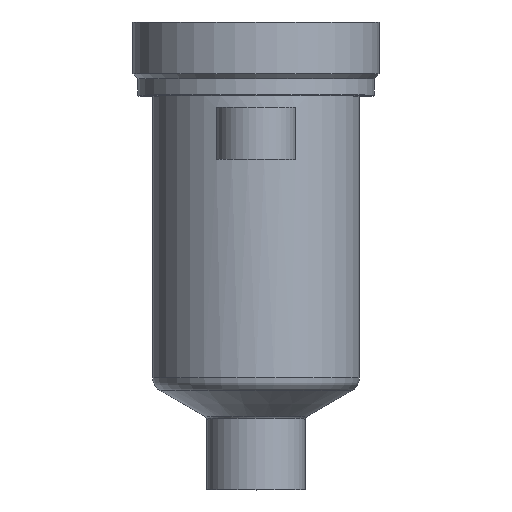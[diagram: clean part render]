
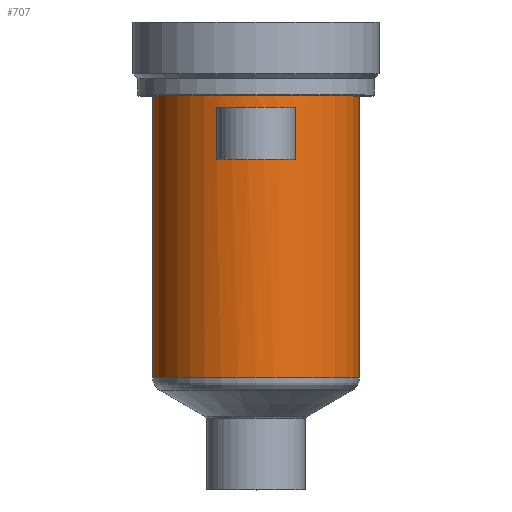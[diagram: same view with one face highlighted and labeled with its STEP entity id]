
A CAD part, top view. The second image highlights one B-rep face of the part: STEP entity #707.
In plain terms, the highlighted cylindrical face has radius 21 mm (diameter 42 mm), a partial arc.
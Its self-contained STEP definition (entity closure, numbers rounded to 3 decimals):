
#199=DIRECTION('',(0.,-1.,0.));
#200=VECTOR('',#199,57.228);
#201=CARTESIAN_POINT('',(21.,0.,0.));
#202=LINE('',#201,#200);
#203=CARTESIAN_POINT('',(0.,-57.228,0.));
#204=DIRECTION('',(0.,1.,0.));
#205=DIRECTION('',(-1.,0.,0.));
#206=AXIS2_PLACEMENT_3D('',#203,#204,#205);
#208=DIRECTION('',(0.,1.,0.));
#209=VECTOR('',#208,57.228);
#210=CARTESIAN_POINT('',(-21.,-57.228,0.));
#211=LINE('',#210,#209);
#212=CARTESIAN_POINT('',(0.,0.,0.));
#213=DIRECTION('',(0.,1.,0.));
#214=DIRECTION('',(-1.,0.,0.));
#215=AXIS2_PLACEMENT_3D('',#212,#213,#214);
#293=DIRECTION('',(0.,-1.,0.));
#294=VECTOR('',#293,10.5);
#295=CARTESIAN_POINT('',(-8.,-2.5,19.416));
#296=LINE('',#295,#294);
#297=CARTESIAN_POINT('',(0.,-13.,0.));
#298=DIRECTION('',(0.,1.,0.));
#299=DIRECTION('',(-0.381,0.,0.925));
#300=AXIS2_PLACEMENT_3D('',#297,#298,#299);
#323=CARTESIAN_POINT('',(0.,-2.5,0.));
#324=DIRECTION('',(0.,-1.,0.));
#325=DIRECTION('',(0.381,0.,0.925));
#326=AXIS2_PLACEMENT_3D('',#323,#324,#325);
#341=DIRECTION('',(0.,-1.,0.));
#342=VECTOR('',#341,10.5);
#343=CARTESIAN_POINT('',(8.,-2.5,19.416));
#344=LINE('',#343,#342);
#402=CARTESIAN_POINT('',(-21.,0.,0.));
#403=CARTESIAN_POINT('',(21.,0.,0.));
#404=VERTEX_POINT('',#402);
#405=VERTEX_POINT('',#403);
#414=CARTESIAN_POINT('',(-8.,-2.5,19.416));
#415=VERTEX_POINT('',#414);
#416=CARTESIAN_POINT('',(8.,-2.5,19.416));
#417=VERTEX_POINT('',#416);
#454=CARTESIAN_POINT('',(21.,-57.228,0.));
#455=VERTEX_POINT('',#454);
#464=CARTESIAN_POINT('',(-21.,-57.228,0.));
#465=VERTEX_POINT('',#464);
#466=CARTESIAN_POINT('',(-8.,-13.,19.416));
#467=CARTESIAN_POINT('',(8.,-13.,19.416));
#468=VERTEX_POINT('',#466);
#469=VERTEX_POINT('',#467);
#685=CARTESIAN_POINT('',(0.,16.4,0.));
#686=DIRECTION('',(0.,-1.,0.));
#687=DIRECTION('',(-1.,0.,0.));
#688=AXIS2_PLACEMENT_3D('',#685,#686,#687);
#689=CYLINDRICAL_SURFACE('',#688,21.);
#690=ORIENTED_EDGE('',*,*,#679,.T.);
#692=ORIENTED_EDGE('',*,*,#691,.F.);
#693=ORIENTED_EDGE('',*,*,#675,.T.);
#694=ORIENTED_EDGE('',*,*,#665,.T.);
#695=EDGE_LOOP('',(#690,#692,#693,#694));
#696=FACE_OUTER_BOUND('',#695,.F.);
#698=ORIENTED_EDGE('',*,*,#697,.T.);
#700=ORIENTED_EDGE('',*,*,#699,.T.);
#702=ORIENTED_EDGE('',*,*,#701,.F.);
#704=ORIENTED_EDGE('',*,*,#703,.T.);
#705=EDGE_LOOP('',(#698,#700,#702,#704));
#706=FACE_BOUND('',#705,.F.);
#707=ADVANCED_FACE('',(#696,#706),#689,.T.);
#207=CIRCLE('',#206,21.);
#216=CIRCLE('',#215,21.);
#301=CIRCLE('',#300,21.);
#327=CIRCLE('',#326,21.);
#665=EDGE_CURVE('',#404,#405,#216,.T.);
#675=EDGE_CURVE('',#465,#404,#211,.T.);
#679=EDGE_CURVE('',#405,#455,#202,.T.);
#691=EDGE_CURVE('',#465,#455,#207,.T.);
#697=EDGE_CURVE('',#415,#468,#296,.T.);
#699=EDGE_CURVE('',#468,#469,#301,.T.);
#701=EDGE_CURVE('',#417,#469,#344,.T.);
#703=EDGE_CURVE('',#417,#415,#327,.T.);
